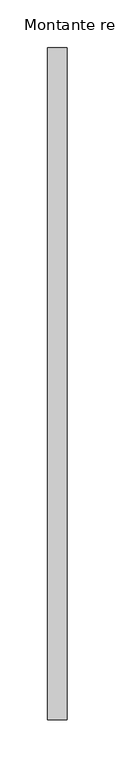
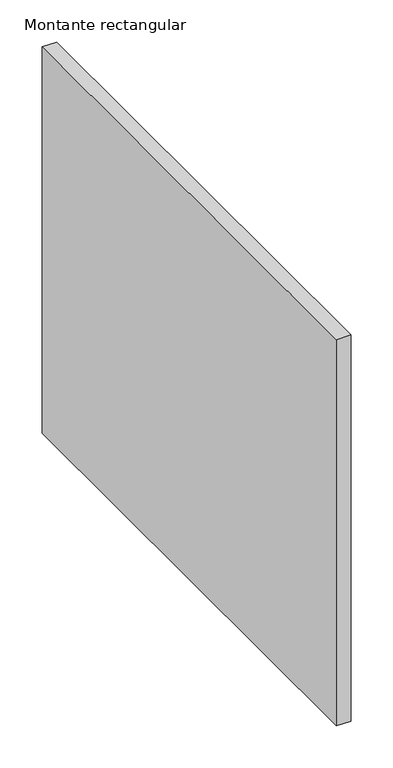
"""IFC4 building model written with IfcOpenShell, lengths in millimetres: member geometry, Montante rectangular : CIRCLES 2."""

from ifc_helpers import new_model, si_unit, frame, origin, place, context, project, spatial, polyline, outline, extrude, source, transform, mapped, element, save


def montante_rectangular_c3090772(model_context):
    return source(origin(), model_context, "Body", "SweptSolid", [
        extrude(outline(polyline([(0.0, 350.0), (0.0, -350.0), (-20.0, -350.0), (-20.0, 350.0), (0.0, 350.0)])), frame((0.0, 0.0, -560.0), z_axis=(0.0, 0.0, 1.0), x_axis=(1.0, 0.0, 0.0)), (0.0, 0.0, 1.0), 560.0),
    ])


if __name__ == "__main__":
    model = new_model("IFC4")
    model_context = context("Model", 3, world=origin())
    ifc_project = project(units=[si_unit("LENGTHUNIT", "METRE", prefix="MILLI")], contexts=[model_context])
    site = spatial("IfcSite", under=ifc_project)
    building = spatial("IfcBuilding", under=site)
    placement = place(None, origin())
    montante_rectangular_shape = montante_rectangular_c3090772(model_context)
    element("IfcMember", 1, ObjectType="Montante rectangular : CIRCLES 2", at=placement, inside=building, context=model_context, shape_type="MappedRepresentation", body=[
        mapped(montante_rectangular_shape, transform((0.0, 0.0, 0.0), x_axis=(1.0, 0.0, 0.0), y_axis=(0.0, 1.0, 0.0), z_axis=(0.0, 0.0, 1.0))),
    ])
    save(model, "model.ifc")
